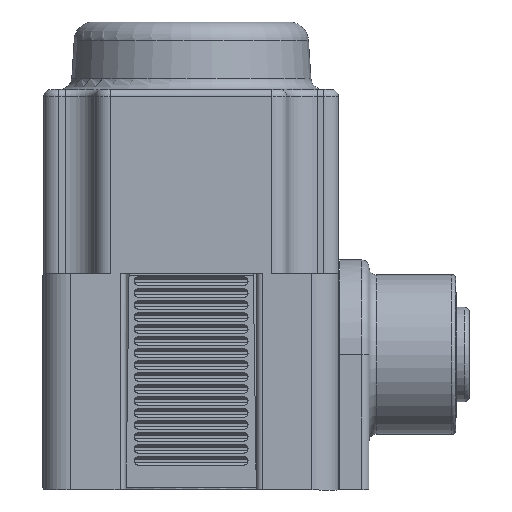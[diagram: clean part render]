
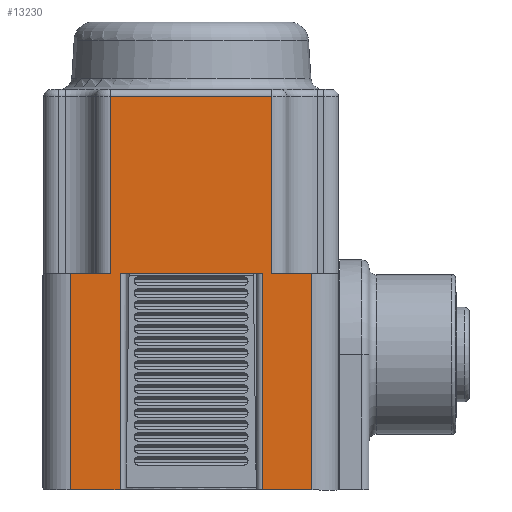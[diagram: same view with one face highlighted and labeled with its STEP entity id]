
A CAD part, left-side view. The second image highlights one B-rep face of the part: STEP entity #13230.
In plain terms, the highlighted planar face has unit normal (-1, 0, 0).
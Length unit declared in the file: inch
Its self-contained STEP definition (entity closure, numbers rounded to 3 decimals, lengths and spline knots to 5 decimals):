
#1502=LINE('',#22477,#2403);
#1515=LINE('',#22547,#2416);
#1638=LINE('',#24135,#2539);
#1656=LINE('',#24195,#2557);
#1657=LINE('',#24199,#2558);
#1660=LINE('',#24218,#2561);
#1673=LINE('',#24287,#2574);
#1674=LINE('',#24291,#2575);
#1675=LINE('',#24292,#2576);
#1676=LINE('',#24294,#2577);
#1677=LINE('',#24296,#2578);
#1678=LINE('',#24297,#2579);
#2403=VECTOR('',#17729,0.3937);
#2416=VECTOR('',#17812,0.3937);
#2539=VECTOR('',#18133,0.3937);
#2557=VECTOR('',#18205,0.3937);
#2558=VECTOR('',#18210,0.3937);
#2561=VECTOR('',#18231,0.3937);
#2574=VECTOR('',#18322,0.3937);
#2575=VECTOR('',#18327,0.3937);
#2576=VECTOR('',#18328,0.3937);
#2577=VECTOR('',#18329,0.3937);
#2578=VECTOR('',#18330,0.3937);
#2579=VECTOR('',#18331,0.3937);
#3370=FACE_OUTER_BOUND('',#4172,.T.);
#4172=EDGE_LOOP('',(#11308,#11309,#11310,#11311,#11312,#11313,#11314,#11315,
#11316,#11317,#11318,#11319));
#5703=VERTEX_POINT('',#22469);
#5705=VERTEX_POINT('',#22475);
#5727=VERTEX_POINT('',#22545);
#5863=VERTEX_POINT('',#24132);
#5864=VERTEX_POINT('',#24134);
#5879=VERTEX_POINT('',#24194);
#5880=VERTEX_POINT('',#24198);
#5887=VERTEX_POINT('',#24216);
#5904=VERTEX_POINT('',#24286);
#5905=VERTEX_POINT('',#24290);
#5906=VERTEX_POINT('',#24293);
#5907=VERTEX_POINT('',#24295);
#7407=EDGE_CURVE('',#5705,#5703,#1502,.T.);
#7443=EDGE_CURVE('',#5727,#5705,#1515,.T.);
#7652=EDGE_CURVE('',#5864,#5863,#1638,.T.);
#7682=EDGE_CURVE('',#5879,#5703,#1656,.T.);
#7684=EDGE_CURVE('',#5880,#5879,#1657,.T.);
#7694=EDGE_CURVE('',#5727,#5887,#1660,.T.);
#7728=EDGE_CURVE('',#5904,#5864,#1673,.T.);
#7730=EDGE_CURVE('',#5905,#5887,#1674,.T.);
#7731=EDGE_CURVE('',#5904,#5905,#1675,.T.);
#7732=EDGE_CURVE('',#5906,#5863,#1676,.T.);
#7733=EDGE_CURVE('',#5906,#5907,#1677,.T.);
#7734=EDGE_CURVE('',#5907,#5880,#1678,.T.);
#11308=ORIENTED_EDGE('',*,*,#7407,.F.);
#11309=ORIENTED_EDGE('',*,*,#7443,.F.);
#11310=ORIENTED_EDGE('',*,*,#7694,.T.);
#11311=ORIENTED_EDGE('',*,*,#7730,.F.);
#11312=ORIENTED_EDGE('',*,*,#7731,.F.);
#11313=ORIENTED_EDGE('',*,*,#7728,.T.);
#11314=ORIENTED_EDGE('',*,*,#7652,.T.);
#11315=ORIENTED_EDGE('',*,*,#7732,.F.);
#11316=ORIENTED_EDGE('',*,*,#7733,.T.);
#11317=ORIENTED_EDGE('',*,*,#7734,.T.);
#11318=ORIENTED_EDGE('',*,*,#7684,.T.);
#11319=ORIENTED_EDGE('',*,*,#7682,.T.);
#11818=PLANE('',#14645);
#13230=ADVANCED_FACE('',(#3370),#11818,.T.);
#14645=AXIS2_PLACEMENT_3D('',#24289,#18325,#18326);
#17729=DIRECTION('',(0.,-1.,0.));
#17812=DIRECTION('',(0.,0.,1.));
#18133=DIRECTION('',(0.,-1.,0.));
#18205=DIRECTION('',(0.,0.,1.));
#18210=DIRECTION('',(0.,1.,0.));
#18231=DIRECTION('',(0.,1.,0.));
#18322=DIRECTION('',(0.,0.,1.));
#18325=DIRECTION('center_axis',(-1.,0.,0.));
#18326=DIRECTION('ref_axis',(0.,0.,1.));
#18327=DIRECTION('',(0.,0.,1.));
#18328=DIRECTION('',(0.,1.,0.));
#18329=DIRECTION('',(0.,0.,1.));
#18330=DIRECTION('',(0.,-1.,0.));
#18331=DIRECTION('',(0.,0.,1.));
#22469=CARTESIAN_POINT('',(-0.5806,-0.35005,0.65855));
#22475=CARTESIAN_POINT('',(-0.5806,0.31795,0.65855));
#22477=CARTESIAN_POINT('',(-0.5806,0.31795,0.65855));
#22545=CARTESIAN_POINT('',(-0.5806,0.31795,-0.07345));
#22547=CARTESIAN_POINT('',(-0.5806,0.31795,-0.07345));
#24132=CARTESIAN_POINT('',(-0.5806,-0.31005,-0.07345));
#24134=CARTESIAN_POINT('',(-0.5806,0.27795,-0.07345));
#24135=CARTESIAN_POINT('',(-0.5806,0.27795,-0.07345));
#24194=CARTESIAN_POINT('',(-0.5806,-0.35005,-0.07345));
#24195=CARTESIAN_POINT('',(-0.5806,-0.35005,-0.07345));
#24198=CARTESIAN_POINT('',(-0.5806,-0.51505,-0.07345));
#24199=CARTESIAN_POINT('',(-0.5806,-0.51505,-0.07345));
#24216=CARTESIAN_POINT('',(-0.5806,0.48295,-0.07345));
#24218=CARTESIAN_POINT('',(-0.5806,0.31795,-0.07345));
#24286=CARTESIAN_POINT('',(-0.5806,0.27795,-0.96745));
#24287=CARTESIAN_POINT('',(-0.5806,0.27795,-0.96745));
#24289=CARTESIAN_POINT('Origin',(-0.5806,-0.51545,
-0.15445));
#24290=CARTESIAN_POINT('',(-0.5806,0.48295,-0.96745));
#24291=CARTESIAN_POINT('',(-0.5806,0.48295,-0.96745));
#24292=CARTESIAN_POINT('',(-0.5806,0.27795,-0.96745));
#24293=CARTESIAN_POINT('',(-0.5806,-0.31005,-0.96745));
#24294=CARTESIAN_POINT('',(-0.5806,-0.31005,-0.96745));
#24295=CARTESIAN_POINT('',(-0.5806,-0.51505,-0.96745));
#24296=CARTESIAN_POINT('',(-0.5806,-0.31005,-0.96745));
#24297=CARTESIAN_POINT('',(-0.5806,-0.51505,-0.96745));
